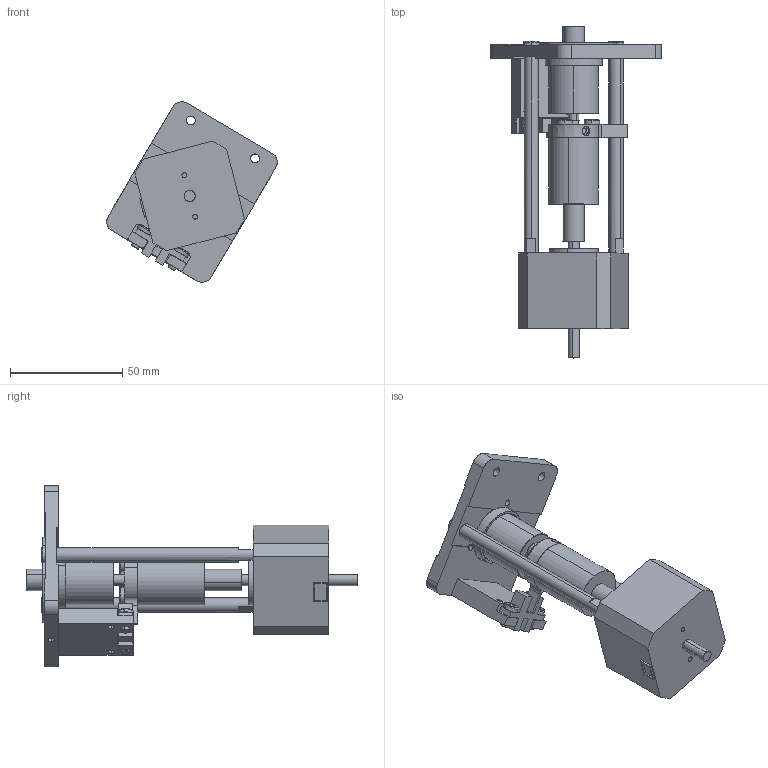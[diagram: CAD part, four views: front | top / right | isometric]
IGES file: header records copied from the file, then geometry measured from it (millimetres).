
Start section: SolidWorks IGES file using analytic representation for surfaces
Global section: file name: R:\ORIG\Model\Assembly Web\MOD91007\MOD91007 RB.IGS; native system: SolidWorks 2014; preprocessor: SolidWorks 2014; author: Slater.P; date: 151117.132035; units: inch
Bounding box: 75.92 x 147.83 x 80.41 mm (x, y, z)
Surface area: 44865.1 mm2 (no closed solid volume)
Topology: 0 solids, 0 shells, 587 faces, 8096 edges, 8094 vertices
Faces by surface type: bspline 354, revolution 233
